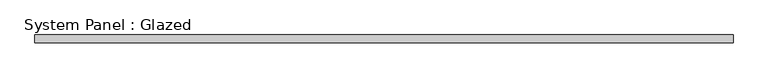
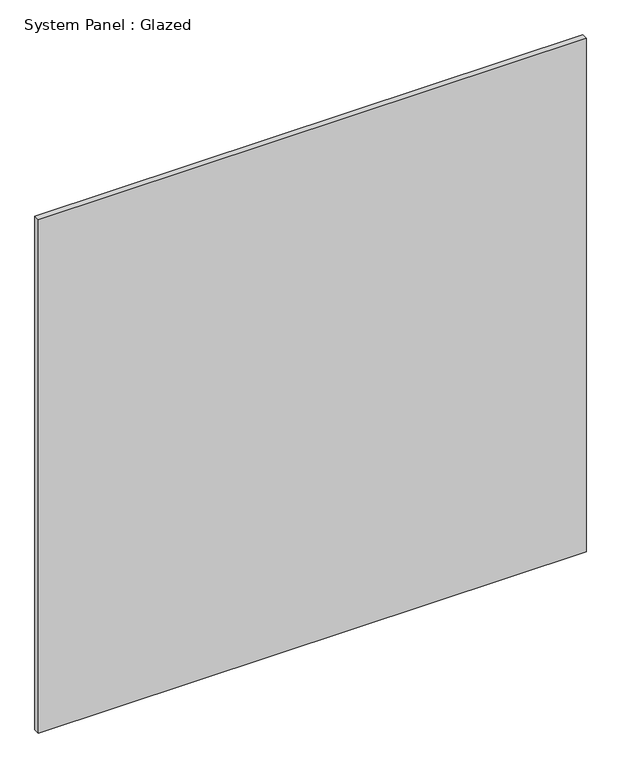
"""IFC4 building model written with IfcOpenShell, lengths in millimetres: plate geometry, System Panel : Glazed."""

from ifc_helpers import new_model, si_unit, origin, origin_with_axes, place, context, project, spatial, polyline, outline, extrude, source, transform, mapped, element, save


def system_panel_glazed_ff5a1f4d(model_context):
    return source(origin(), model_context, "Body", "SweptSolid", [
        extrude(outline(polyline([(1153.3070958, 19.05), (-1153.3070958, 19.05), (-1153.3070958, 44.45), (1153.3070958, 44.45), (1153.3070958, 19.05)])), origin_with_axes(), (0.0, 0.0, 1.0), 2286.0),
    ])


if __name__ == "__main__":
    model = new_model("IFC4")
    model_context = context("Model", 3, world=origin())
    ifc_project = project(units=[si_unit("LENGTHUNIT", "METRE", prefix="MILLI")], contexts=[model_context])
    site = spatial("IfcSite", under=ifc_project)
    building = spatial("IfcBuilding", under=site)
    placement = place(None, origin())
    system_panel_glazed_shape = system_panel_glazed_ff5a1f4d(model_context)
    element("IfcPlate", 1, ObjectType="System Panel : Glazed", at=placement, inside=building, context=model_context, shape_type="MappedRepresentation", body=[
        mapped(system_panel_glazed_shape, transform((0.0, 0.0, 0.0), x_axis=(1.0, 0.0, 0.0), y_axis=(0.0, 1.0, 0.0), z_axis=(0.0, 0.0, 1.0))),
    ])
    save(model, "model.ifc")
